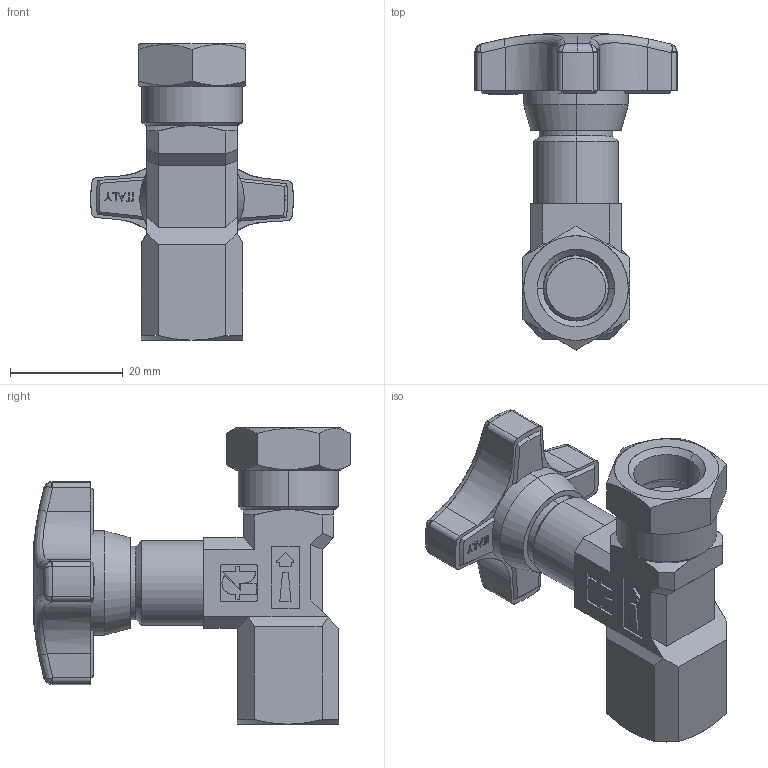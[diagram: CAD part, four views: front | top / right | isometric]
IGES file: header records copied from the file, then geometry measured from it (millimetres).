
Start section: SolidWorks IGES file using analytic representation for surfaces
Global section: file name: C:\Disegni3D\Tognella\Catalogo3D\FT290\FT290-14FF\FileIges\FT290-14FF.IGS; native system: SolidWorks 2006 by SolidWorks Corporation; preprocessor: SolidWorks 2006 by SolidWorks Corporation; author: Administrator; date: 061229.151414; units: millimetre
Bounding box: 35.99 x 56.05 x 52.5 mm (x, y, z)
Surface area: 9909.2 mm2 (no closed solid volume)
Topology: 0 solids, 0 shells, 493 faces, 4561 edges, 4551 vertices
Faces by surface type: bspline 366, revolution 127
